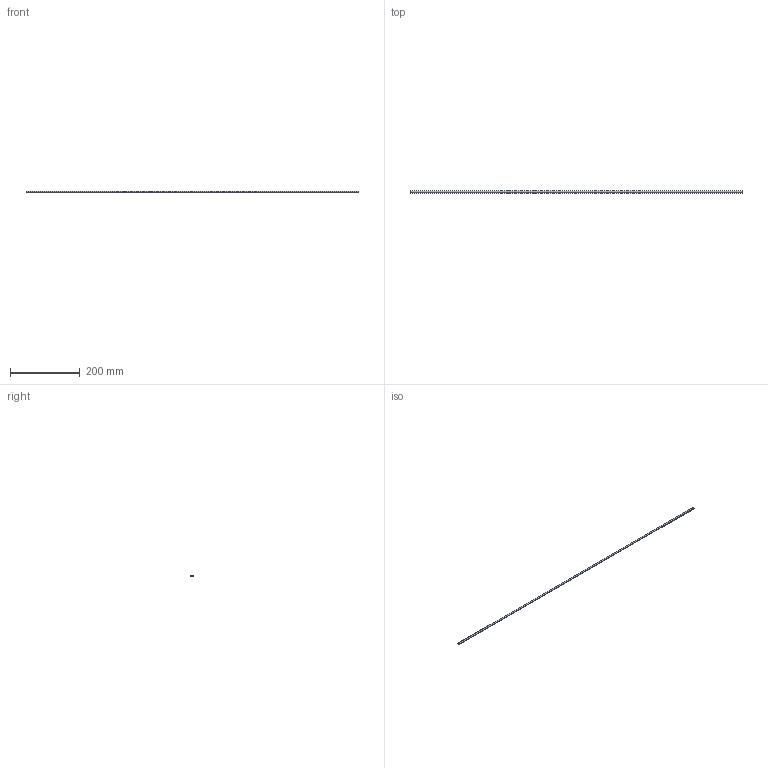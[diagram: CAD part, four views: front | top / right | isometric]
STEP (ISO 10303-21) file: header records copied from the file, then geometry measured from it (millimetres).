
FILE_DESCRIPTION(('STEP AP242'),'1');
FILE_NAME('OPO_53.499.16_volu_3d.stp','2025-11-08T20:33:06',(' '),(' '),'Spatial InterOp 3D',' ',' ');
FILE_SCHEMA(('AP242_MANAGED_MODEL_BASED_3D_ENGINEERING_MIM_LF {1 0 10303 442 1 1 4}'));
Length unit declared in the file: millimetre
Products named in the file (1): 1
Bounding box: 952 x 5.97 x 3.98 mm (x, y, z)
Volume: 13021.4 mm3; surface area: 15396.3 mm2
Topology: 4 solids, 4 shells, 62 faces, 163 edges, 110 vertices
Faces by surface type: plane 38, cylinder 24
Entity records: 2501 total; most frequent: DIRECTION 345, CARTESIAN_POINT 338, ORIENTED_EDGE 324, EDGE_CURVE 162, AXIS2_PLACEMENT_3D 115, LINE 115, VECTOR 115, VERTEX_POINT 108
